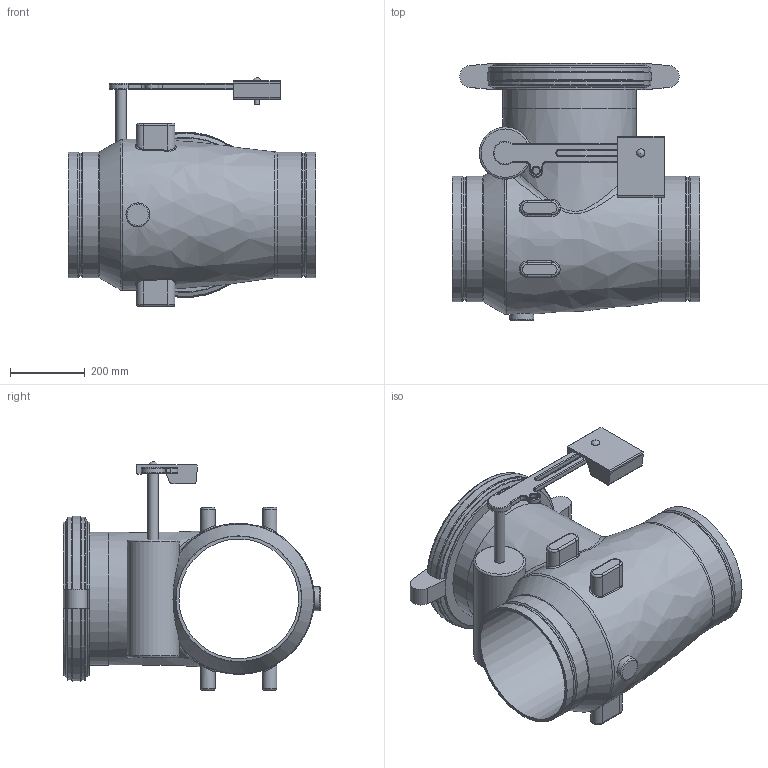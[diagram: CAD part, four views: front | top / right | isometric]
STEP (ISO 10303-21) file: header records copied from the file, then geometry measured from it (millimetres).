
FILE_DESCRIPTION(/* description */ ('VIC AWWA VALVE CHECK WEIGHT AND LEVER SERIES 317 (DRG)','CAx-IF Rec.Pracs.---Representation and Presentation of Product Manufacturing Information (PMI)---4.0---2014-10-13'),/* implementation_level */ '2;1');
FILE_NAME(/* name */ 'C:\Users\Vjadhav\Desktop\CAD for Inventor\1\317\STEP\Victaulic_AWWA_Valve Check Weight and Lever_Series 317 (DRG)\Victaulic_AWWA_Valve Check Weight and Lever_Series 317 (DRG)_12 (300).stp',/* time_stamp */ '2021-10-01T17:35:33+05:00',/* author */ ('jbrannon'),/* organization */ ('Victaulic'),/* preprocessor_version */ 'ST-DEVELOPER v17.2',/* originating_system */ 'Autodesk Inventor 2019',/* authorisation */ '');
FILE_SCHEMA (('AP242_MANAGED_MODEL_BASED_3D_ENGINEERING_MIM_LF { 1 0 10303 442 1 1 4 }'));
Length unit declared in the file: inch
Products named in the file (1): 317-12.0
Bounding box: 660.4 x 686.82 x 610.67 mm (x, y, z)
Volume: 55830017.7 mm3; surface area: 2199056.2 mm2
Topology: 1 solids, 1 shells, 221 faces, 581 edges, 368 vertices
Faces by surface type: cylinder 76, plane 59, torus 49, bspline 26, cone 10, sphere 1
Full cylindrical faces by diameter (mm): 12.7 x2, 19.177 x1, 22.225 x1, 28.575 x1, 34.925 x1, 63.5 x1, 139.192 x1, 319.532 x1, 327.812 x2, 335.28 x4, 355.6 x1
Entity records: 8930 total; most frequent: CARTESIAN_POINT 3190, DIRECTION 1165, ORIENTED_EDGE 1160, EDGE_CURVE 580, AXIS2_PLACEMENT_3D 480, VERTEX_POINT 368, CIRCLE 271, EDGE_LOOP 238
